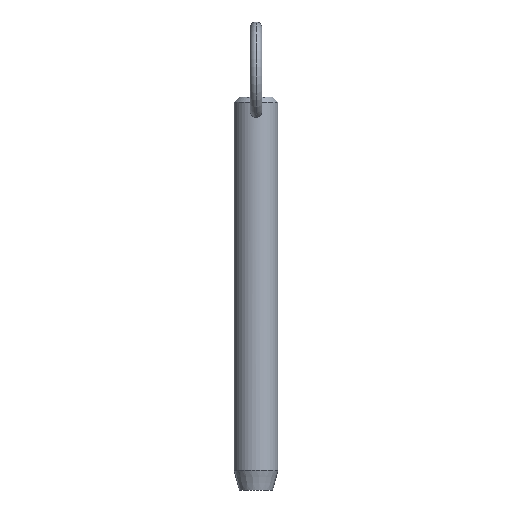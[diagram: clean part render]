
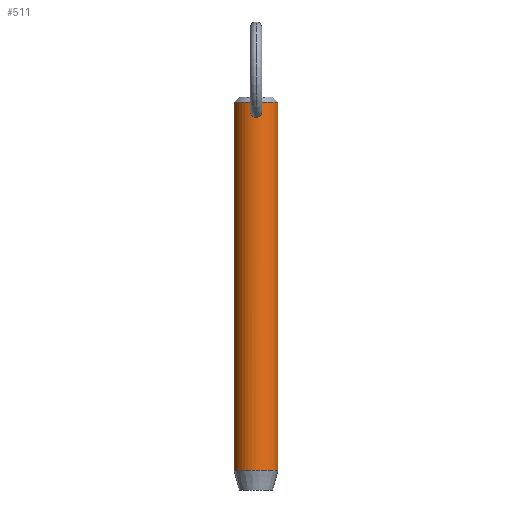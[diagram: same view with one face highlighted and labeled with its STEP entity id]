
A CAD part, front view. The second image highlights one B-rep face of the part: STEP entity #511.
In plain terms, the highlighted cylindrical face has radius 5.55 mm (diameter 11.1 mm), a partial arc.
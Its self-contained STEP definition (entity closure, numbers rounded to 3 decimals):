
#34 = CARTESIAN_POINT ( 'NONE',  ( -0.106, -5.55, 83.445 ) ) ;
#36 = CARTESIAN_POINT ( 'NONE',  ( -1.5, -5.343, 81.453 ) ) ;
#40 = CARTESIAN_POINT ( 'NONE',  ( 0.515, -5.527, 83.322 ) ) ;
#41 = CARTESIAN_POINT ( 'NONE',  ( 1.295, -5.397, 82.482 ) ) ;
#69 = CARTESIAN_POINT ( 'NONE',  ( 0., -5.55, 79.977 ) ) ;
#72 = CARTESIAN_POINT ( 'NONE',  ( -1.054, -5.449, 80.404 ) ) ;
#76 = ORIENTED_EDGE ( 'NONE', *, *, #423, .T. ) ;
#78 = CARTESIAN_POINT ( 'NONE',  ( 1.477, -5.35, 81.244 ) ) ;
#81 = CARTESIAN_POINT ( 'NONE',  ( 1.26, -5.407, 80.643 ) ) ;
#97 = AXIS2_PLACEMENT_3D ( 'NONE', #169, #290, #127 ) ;
#102 = VECTOR ( 'NONE', #110, 1000. ) ;
#107 = CARTESIAN_POINT ( 'NONE',  ( -0.716, -5.504, 80.152 ) ) ;
#109 = CARTESIAN_POINT ( 'NONE',  ( -5.55, 0., -9.2 ) ) ;
#110 = DIRECTION ( 'NONE',  ( 0., 0., -1. ) ) ;
#113 = DIRECTION ( 'NONE',  ( -1., 0., 0. ) ) ;
#114 = VERTEX_POINT ( 'NONE', #145 ) ;
#116 = CARTESIAN_POINT ( 'NONE',  ( 1.363, -5.38, 80.834 ) ) ;
#122 = CARTESIAN_POINT ( 'NONE',  ( 0.421, -5.535, 80.032 ) ) ;
#127 = DIRECTION ( 'NONE',  ( 1., 0., 0. ) ) ;
#145 = CARTESIAN_POINT ( 'NONE',  ( 5.55, 0., -9.2 ) ) ;
#146 = LINE ( 'NONE', #324, #274 ) ;
#147 = EDGE_CURVE ( 'NONE', #361, #114, #231, .T. ) ;
#149 = ORIENTED_EDGE ( 'NONE', *, *, #416, .T. ) ;
#155 = CARTESIAN_POINT ( 'NONE',  ( -0.807, -5.492, 80.205 ) ) ;
#161 = CARTESIAN_POINT ( 'NONE',  ( -1.362, -5.381, 80.832 ) ) ;
#165 = CARTESIAN_POINT ( 'NONE',  ( -0.785, -5.497, 83.158 ) ) ;
#168 = CARTESIAN_POINT ( 'NONE',  ( 0.107, -5.55, 79.977 ) ) ;
#169 = CARTESIAN_POINT ( 'NONE',  ( 0., 0., 83.75 ) ) ;
#170 = CARTESIAN_POINT ( 'NONE',  ( -1.477, -5.35, 81.242 ) ) ;
#192 = VERTEX_POINT ( 'NONE', #510 ) ;
#194 = CARTESIAN_POINT ( 'NONE',  ( -5.55, 0., 83.75 ) ) ;
#200 = CARTESIAN_POINT ( 'NONE',  ( -0.523, -5.526, 80.066 ) ) ;
#203 = CARTESIAN_POINT ( 'NONE',  ( 0., 0., -9.2 ) ) ;
#204 = VERTEX_POINT ( 'NONE', #400 ) ;
#205 = CARTESIAN_POINT ( 'NONE',  ( -1.195, -5.421, 82.671 ) ) ;
#207 = CARTESIAN_POINT ( 'NONE',  ( 5.55, 0., 78.7 ) ) ;
#208 = CARTESIAN_POINT ( 'NONE',  ( -1.485, -5.348, 81.879 ) ) ;
#209 = CARTESIAN_POINT ( 'NONE',  ( 1.486, -5.347, 81.874 ) ) ;
#213 = CARTESIAN_POINT ( 'NONE',  ( -1.503, -5.343, 81.559 ) ) ;
#216 = CARTESIAN_POINT ( 'NONE',  ( 0., -5.55, 83.445 ) ) ;
#229 = CIRCLE ( 'NONE', #515, 5.55 ) ;
#231 = LINE ( 'NONE', #207, #102 ) ;
#233 = ORIENTED_EDGE ( 'NONE', *, *, #147, .F. ) ;
#239 = DIRECTION ( 'NONE',  ( 0., 0., 1. ) ) ;
#242 = EDGE_LOOP ( 'NONE', ( #233, #305, #330, #149 ) ) ;
#245 = CARTESIAN_POINT ( 'NONE',  ( -1.26, -5.407, 80.642 ) ) ;
#246 = CARTESIAN_POINT ( 'NONE',  ( -1.294, -5.398, 82.486 ) ) ;
#248 = CARTESIAN_POINT ( 'NONE',  ( 0.977, -5.464, 80.332 ) ) ;
#250 = CARTESIAN_POINT ( 'NONE',  ( -1.44, -5.36, 82.087 ) ) ;
#252 = CARTESIAN_POINT ( 'NONE',  ( 1.194, -5.422, 82.671 ) ) ;
#272 = CARTESIAN_POINT ( 'NONE',  ( 5.55, 0., 83.75 ) ) ;
#273 = B_SPLINE_CURVE_WITH_KNOTS ( 'NONE', 3,
 ( #69, #470, #348, #513, #200, #107, #155, #430, #72, #245, #161, #402, #170, #36, #213, #208, #250, #246, #205, #288, #165, #360, #326, #471, #34, #216 ),
 .UNSPECIFIED., .F., .F.,
 ( 4, 2, 2, 2, 2, 2, 2, 2, 2, 2, 2, 2, 4 ),
 ( 0.01, 0.01, 0.01, 0.011, 0.011, 0.012, 0.012, 0.012, 0.013, 0.013, 0.014, 0.014, 0.015 ),
 .UNSPECIFIED. ) ;
#274 = VECTOR ( 'NONE', #407, 1000. ) ;
#284 = CARTESIAN_POINT ( 'NONE',  ( 0.417, -5.535, 83.367 ) ) ;
#286 = CARTESIAN_POINT ( 'NONE',  ( 0.716, -5.504, 80.152 ) ) ;
#288 = CARTESIAN_POINT ( 'NONE',  ( -0.939, -5.472, 83.01 ) ) ;
#290 = DIRECTION ( 'NONE',  ( 0., 0., -1. ) ) ;
#297 = DIRECTION ( 'NONE',  ( -1., 0., 0. ) ) ;
#304 = FACE_OUTER_BOUND ( 'NONE', #242, .T. ) ;
#305 = ORIENTED_EDGE ( 'NONE', *, *, #309, .T. ) ;
#309 = EDGE_CURVE ( 'NONE', #361, #386, #397, .T. ) ;
#315 = CARTESIAN_POINT ( 'NONE',  ( 0.106, -5.55, 83.445 ) ) ;
#318 = CARTESIAN_POINT ( 'NONE',  ( 0.786, -5.497, 83.157 ) ) ;
#322 = CARTESIAN_POINT ( 'NONE',  ( 1.44, -5.36, 82.086 ) ) ;
#324 = CARTESIAN_POINT ( 'NONE',  ( -5.55, 0., 78.7 ) ) ;
#326 = CARTESIAN_POINT ( 'NONE',  ( -0.416, -5.535, 83.367 ) ) ;
#330 = ORIENTED_EDGE ( 'NONE', *, *, #429, .T. ) ;
#336 = FACE_BOUND ( 'NONE', #420, .T. ) ;
#339 = CYLINDRICAL_SURFACE ( 'NONE', #461, 5.55 ) ;
#348 = CARTESIAN_POINT ( 'NONE',  ( -0.212, -5.547, 79.988 ) ) ;
#354 = CARTESIAN_POINT ( 'NONE',  ( 1.455, -5.356, 81.138 ) ) ;
#360 = CARTESIAN_POINT ( 'NONE',  ( -0.513, -5.527, 83.323 ) ) ;
#361 = VERTEX_POINT ( 'NONE', #272 ) ;
#362 = CARTESIAN_POINT ( 'NONE',  ( 0.523, -5.526, 80.066 ) ) ;
#374 = CARTESIAN_POINT ( 'NONE',  ( 0., 0., 78.7 ) ) ;
#384 = VERTEX_POINT ( 'NONE', #109 ) ;
#386 = VERTEX_POINT ( 'NONE', #194 ) ;
#397 = CIRCLE ( 'NONE', #97, 5.55 ) ;
#399 = CARTESIAN_POINT ( 'NONE',  ( 1.503, -5.343, 81.559 ) ) ;
#400 = CARTESIAN_POINT ( 'NONE',  ( 0., -5.55, 79.977 ) ) ;
#402 = CARTESIAN_POINT ( 'NONE',  ( -1.455, -5.356, 81.136 ) ) ;
#404 = CARTESIAN_POINT ( 'NONE',  ( 0.213, -5.547, 79.988 ) ) ;
#407 = DIRECTION ( 'NONE',  ( 0., 0., -1. ) ) ;
#416 = EDGE_CURVE ( 'NONE', #384, #114, #229, .T. ) ;
#420 = EDGE_LOOP ( 'NONE', ( #76, #503 ) ) ;
#421 = EDGE_CURVE ( 'NONE', #204, #192, #273, .T. ) ;
#423 = EDGE_CURVE ( 'NONE', #192, #204, #478, .T. ) ;
#429 = EDGE_CURVE ( 'NONE', #386, #384, #146, .T. ) ;
#430 = CARTESIAN_POINT ( 'NONE',  ( -0.976, -5.464, 80.331 ) ) ;
#435 = CARTESIAN_POINT ( 'NONE',  ( 1.5, -5.343, 81.454 ) ) ;
#441 = CARTESIAN_POINT ( 'NONE',  ( 0.941, -5.471, 83.007 ) ) ;
#442 = CARTESIAN_POINT ( 'NONE',  ( 0., -5.55, 79.977 ) ) ;
#452 = DIRECTION ( 'NONE',  ( 0., 0., -1. ) ) ;
#461 = AXIS2_PLACEMENT_3D ( 'NONE', #374, #452, #297 ) ;
#470 = CARTESIAN_POINT ( 'NONE',  ( -0.107, -5.55, 79.977 ) ) ;
#471 = CARTESIAN_POINT ( 'NONE',  ( -0.211, -5.547, 83.429 ) ) ;
#475 = CARTESIAN_POINT ( 'NONE',  ( 1.055, -5.449, 80.405 ) ) ;
#478 = B_SPLINE_CURVE_WITH_KNOTS ( 'NONE', 3,
 ( #509, #315, #518, #284, #40, #318, #441, #252, #41, #322, #209, #399, #435, #78, #354, #116, #81, #475, #248, #522, #286, #362, #122, #404, #168, #442 ),
 .UNSPECIFIED., .F., .F.,
 ( 4, 2, 2, 2, 2, 2, 2, 2, 2, 2, 2, 2, 4 ),
 ( 0.005, 0.005, 0.005, 0.006, 0.006, 0.007, 0.007, 0.008, 0.008, 0.009, 0.009, 0.009, 0.01 ),
 .UNSPECIFIED. ) ;
#503 = ORIENTED_EDGE ( 'NONE', *, *, #421, .T. ) ;
#509 = CARTESIAN_POINT ( 'NONE',  ( 0., -5.55, 83.445 ) ) ;
#510 = CARTESIAN_POINT ( 'NONE',  ( 0., -5.55, 83.445 ) ) ;
#511 = ADVANCED_FACE ( 'NONE', ( #304, #336 ), #339, .T. ) ;
#513 = CARTESIAN_POINT ( 'NONE',  ( -0.42, -5.535, 80.032 ) ) ;
#515 = AXIS2_PLACEMENT_3D ( 'NONE', #203, #239, #113 ) ;
#518 = CARTESIAN_POINT ( 'NONE',  ( 0.214, -5.547, 83.428 ) ) ;
#522 = CARTESIAN_POINT ( 'NONE',  ( 0.807, -5.492, 80.206 ) ) ;
